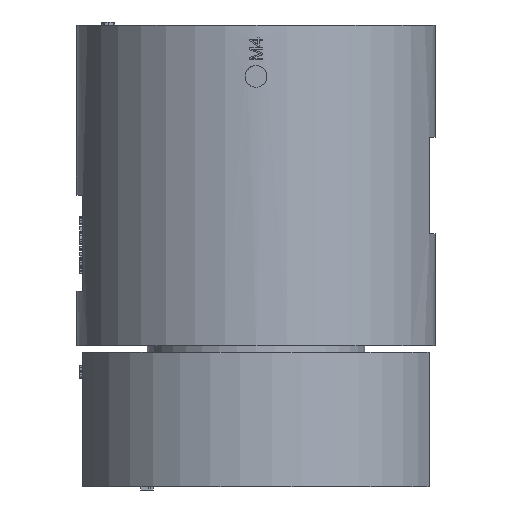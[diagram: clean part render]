
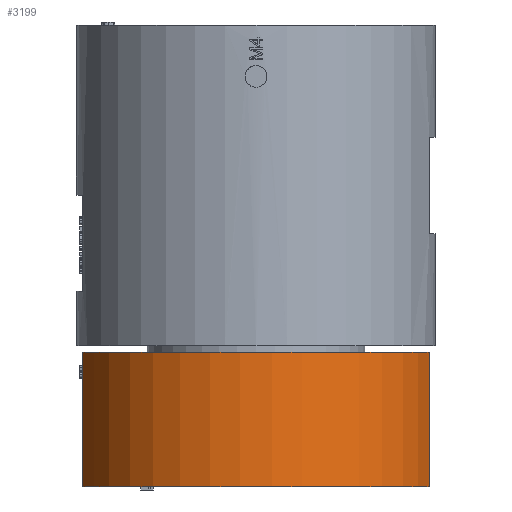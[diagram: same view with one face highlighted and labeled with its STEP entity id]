
A CAD part, left-side view. The second image highlights one B-rep face of the part: STEP entity #3199.
In plain terms, the highlighted cylindrical face has radius 28 mm (diameter 56 mm), a partial arc.
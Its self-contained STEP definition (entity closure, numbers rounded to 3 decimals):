
#153=CYLINDRICAL_SURFACE('',#19555,28.);
#547=CIRCLE('',#19548,28.);
#549=CIRCLE('',#19554,28.);
#1449=LINE('',#34872,#2230);
#1452=LINE('',#34880,#2233);
#2230=VECTOR('',#21622,1.);
#2233=VECTOR('',#21631,1.);
#3199=ADVANCED_FACE('',(#4614),#153,.T.);
#4614=FACE_OUTER_BOUND('',#5759,.T.);
#5759=EDGE_LOOP('',(#9747,#9748,#9749,#9750));
#9747=ORIENTED_EDGE('',*,*,#15745,.T.);
#9748=ORIENTED_EDGE('',*,*,#15752,.T.);
#9749=ORIENTED_EDGE('',*,*,#15754,.T.);
#9750=ORIENTED_EDGE('',*,*,#15748,.T.);
#13225=VERTEX_POINT('',#34865);
#13226=VERTEX_POINT('',#34867);
#13228=VERTEX_POINT('',#34873);
#13230=VERTEX_POINT('',#34881);
#15745=EDGE_CURVE('',#13226,#13225,#547,.T.);
#15748=EDGE_CURVE('',#13228,#13226,#1449,.T.);
#15752=EDGE_CURVE('',#13225,#13230,#1452,.T.);
#15754=EDGE_CURVE('',#13230,#13228,#549,.T.);
#19548=AXIS2_PLACEMENT_3D('',#34866,#21616,#21617);
#19554=AXIS2_PLACEMENT_3D('',#34884,#21635,#21636);
#19555=AXIS2_PLACEMENT_3D('',#34885,#21637,#21638);
#21616=DIRECTION('',(0.,0.,1.));
#21617=DIRECTION('',(-1.,0.,0.));
#21622=DIRECTION('',(0.,0.,-1.));
#21631=DIRECTION('',(0.,0.,1.));
#21635=DIRECTION('',(0.,0.,-1.));
#21636=DIRECTION('',(-1.,0.,0.));
#21637=DIRECTION('',(0.,0.,-1.));
#21638=DIRECTION('',(-1.,0.,0.));
#34865=CARTESIAN_POINT('',(-7.416,-27.,0.));
#34866=CARTESIAN_POINT('',(0.,0.,0.));
#34867=CARTESIAN_POINT('',(-7.416,27.,0.));
#34872=CARTESIAN_POINT('',(-7.416,27.,21.));
#34873=CARTESIAN_POINT('',(-7.416,27.,21.));
#34880=CARTESIAN_POINT('',(-7.416,-27.,21.));
#34881=CARTESIAN_POINT('',(-7.416,-27.,21.));
#34884=CARTESIAN_POINT('',(0.,0.,21.));
#34885=CARTESIAN_POINT('',(0.,0.,21.));
